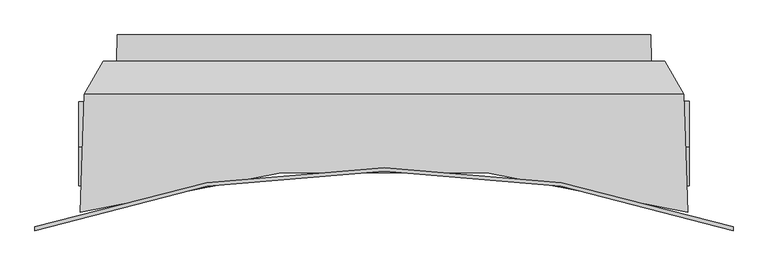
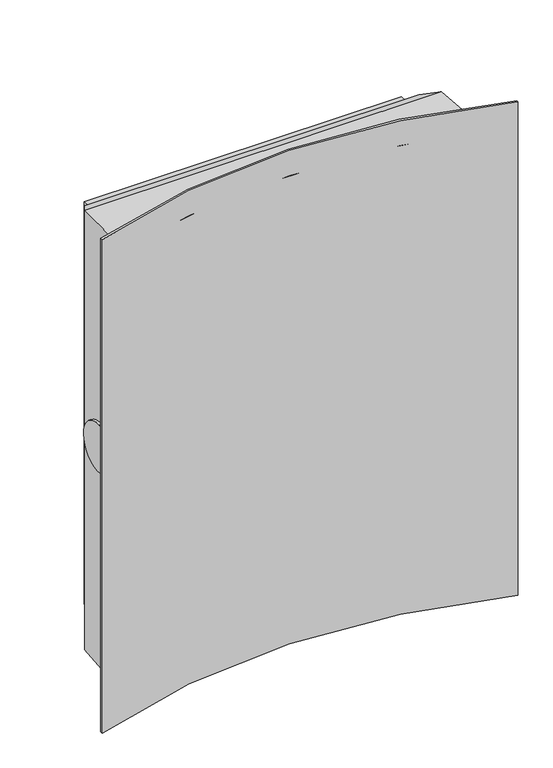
"""IFC4 building model written with IfcOpenShell, lengths in millimetres: proxy geometry, SU.900x1200ManwayRiserAdapter.3500."""

from ifc_helpers import new_model, si_unit, frame, origin, place, context, project, spatial, polyline, circle_curve, ellipse_curve, source, transform, mapped, element, save
from ifc_brep_helpers import plane_surface, cylinder_surface, revolved_surface, advanced_brep


def generic_models_c3405434(model_context):
    return source(origin(), model_context, "Body", "AdvancedBrep", [
        advanced_brep(
        [(498.8644366, -174.4226099, -69.7774514), (506.0, -174.4226099, -69.7774514), (506.0, -185.5773901, 69.7774514), (499.2539702, -185.5773901, 69.7774514), (-506.0, -174.4226099, -69.7774514), (-498.8644366, -174.4226099, -69.7774514), (-499.2539702, -185.5773901, 69.7774514), (-506.0, -185.5773901, 69.7774514), (-496.206021, -98.2955463, -646.206021), (-503.0285785, -293.6680303, -653.0285785), (-503.0285785, -293.6680303, 653.0285785), (-496.206021, -98.2955463, 646.206021), (-496.6147495, -110.0, 0.0), (503.0285785, -293.6680303, -653.0285785), (496.206021, -98.2955463, -646.206021), (496.206021, -98.2955463, 646.206021), (503.0285785, -293.6680303, 653.0285785), (496.6147495, -110.0, 0.0), (578.2496957, -318.1087275, -725.0), (-578.2496957, -318.1087275, -725.0), (-578.2496957, -318.1087275, 725.0), (578.2496957, -318.1087275, 725.0), (-464.8584727, -44.0, -614.8584727), (464.8584727, -44.0, -614.8584727), (464.8584727, -44.0, 614.8584727), (-464.8584727, -44.0, 614.8584727), (443.0401711, -44.0, -593.0401711), (443.0401711, -44.0, 593.0401711), (-443.0401711, -44.0, 593.0401711), (-443.0401711, -44.0, -593.0401711), (441.5036573, 0.0, 591.5036573), (441.5036573, 0.0, -591.5036573), (-441.5036573, 0.0, -591.5036573), (-441.5036573, 0.0, 591.5036573), (578.2496957, -324.4671382, -725.0), (578.2496957, -324.4671382, 725.0), (-578.2496957, -324.4671382, 725.0), (-578.2496957, -324.4671382, -725.0)],
        [
            (0, 1),
            (1, 2, circle_curve(frame((506.0, -180.0, 0.0), z_axis=(-1.0, 0.0, 0.0), x_axis=(0.0, 0.07967700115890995, -0.99682073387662)), 70.0)),
            (2, 3),
            (3, 0, ellipse_curve(frame((499.0592034, -180.0, 0.0), z_axis=(0.9993908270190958, 0.03489949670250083, 0.0), x_axis=(0.03489949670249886, -0.9993908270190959, 0.0)), 70.0426681, 70.0)),
            (4, 5),
            (5, 6, ellipse_curve(frame((-499.0592034, -180.0, 0.0), z_axis=(-0.9993908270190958, 0.034899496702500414, 0.0), x_axis=(0.03489949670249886, 0.9993908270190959, 0.0)), 70.0426681, 70.0)),
            (6, 7),
            (7, 4, circle_curve(frame((-506.0, -180.0, 0.0), z_axis=(1.0, 0.0, 0.0), x_axis=(0.0, 0.07967700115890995, -0.99682073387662)), 70.0)),
            (8, 9),
            (9, 10),
            (10, 11),
            (11, 8),
            (5, 12, ellipse_curve(frame((-499.0592034, -180.0, 0.0), z_axis=(0.9993908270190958, -0.034899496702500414, 0.0), x_axis=(0.03489949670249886, 0.9993908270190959, 0.0)), 70.0426681, 70.0)),
            (12, 6, ellipse_curve(frame((-499.0592034, -180.0, 0.0), z_axis=(0.9993908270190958, -0.034899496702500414, 0.0), x_axis=(0.03489949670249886, 0.9993908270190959, 0.0)), 70.0426681, 70.0)),
            (4, 7, circle_curve(frame((-506.0, -180.0, 0.0), z_axis=(1.0, 0.0, 0.0), x_axis=(0.0, 0.07967700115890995, -0.99682073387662)), 70.0)),
            (13, 14),
            (14, 15),
            (15, 16),
            (16, 13),
            (17, 0, ellipse_curve(frame((499.0592034, -180.0, 0.0), z_axis=(-0.9993908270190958, -0.03489949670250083, 0.0), x_axis=(0.03489949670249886, -0.9993908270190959, 0.0)), 70.0426681, 70.0)),
            (3, 17, ellipse_curve(frame((499.0592034, -180.0, 0.0), z_axis=(-0.9993908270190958, -0.03489949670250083, 0.0), x_axis=(0.03489949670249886, -0.9993908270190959, 0.0)), 70.0426681, 70.0)),
            (2, 1, circle_curve(frame((506.0, -180.0, 0.0), z_axis=(-1.0, 0.0, 0.0), x_axis=(0.0, 0.07967700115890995, -0.99682073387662)), 70.0)),
            (13, 9, ellipse_curve(frame((0.0, -1969.8130865, -711.5608536), z_axis=(0.0, -0.034899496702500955, 0.9993908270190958), x_axis=(0.0, 0.9993908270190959, 0.03489949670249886)), 1751.0667025, 1750.0)),
            (8, 14),
            (15, 11),
            (10, 16, ellipse_curve(frame((0.0, -1969.8130865, 711.5608536), z_axis=(0.0, -0.03489949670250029, -0.9993908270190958), x_axis=(0.0, -0.9993908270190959, 0.03489949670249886)), 1751.0667025, 1750.0)),
            (18, 19, circle_curve(frame((0.0, -1969.8130865, -725.0), z_axis=(0.0, 0.0, 1.0), x_axis=(0.33042839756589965, 0.9438310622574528, 0.0)), 1750.0)),
            (19, 20),
            (20, 21, circle_curve(frame((0.0, -1969.8130865, 725.0), z_axis=(0.0, 0.0, -1.0), x_axis=(0.33042839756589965, 0.9438310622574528, 0.0)), 1750.0)),
            (21, 18),
            (8, 22),
            (22, 23),
            (23, 14),
            (23, 24),
            (24, 15),
            (22, 25),
            (25, 24),
            (26, 27),
            (27, 28),
            (28, 29),
            (29, 26),
            (25, 11),
            (30, 31),
            (31, 32),
            (32, 33),
            (33, 30),
            (30, 27),
            (26, 31),
            (29, 32),
            (33, 28),
            (34, 35),
            (35, 36, circle_curve(frame((0.0, -1969.8130865, 725.0), z_axis=(0.0, 0.0, 1.0), x_axis=(-0.3315651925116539, -0.9434323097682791, 0.0)), 1744.0)),
            (36, 37),
            (37, 34, circle_curve(frame((0.0, -1969.8130865, -725.0), z_axis=(0.0, 0.0, -1.0), x_axis=(-0.3315651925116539, -0.9434323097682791, 0.0)), 1744.0)),
            (34, 18),
            (21, 35),
            (19, 37),
            (36, 20),
        ],
        [
            cylinder_surface(frame((0.0, -180.0, 0.0), z_axis=(1.0000000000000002, 0.0, 0.0), x_axis=(0.0, 0.07967700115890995, -0.99682073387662)), 70.0),
            plane_surface(frame((-496.206021, -98.2955463, -541.5), z_axis=(-0.9993908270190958, 0.034899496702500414, 0.0), x_axis=(-0.034899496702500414, -0.9993908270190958, 0.0))),
            plane_surface(frame((496.206021, -98.2955463, 541.5), z_axis=(0.9993908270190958, 0.03489949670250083, 0.0), x_axis=(0.03489949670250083, -0.9993908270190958, 0.0))),
            plane_surface(frame((506.0, -205.0, 0.0), z_axis=(1.0, 0.0, 0.0), x_axis=(0.0, 0.0, -1.0))),
            plane_surface(frame((-506.0, -205.0, 0.0), z_axis=(-1.0, 0.0, 0.0), x_axis=(0.0, 0.0, -1.0))),
            plane_surface(frame((391.5, -98.2955463, -646.206021), z_axis=(0.0, 0.034899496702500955, -0.9993908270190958), x_axis=(0.0, -0.9993908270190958, -0.034899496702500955))),
            plane_surface(frame((-391.5, -98.2955463, 646.206021), z_axis=(0.0, 0.03489949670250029, 0.9993908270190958), x_axis=(0.0, -0.9993908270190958, 0.03489949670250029))),
            cylinder_surface(frame((0.0, -1969.8130865, 0.0), z_axis=(0.0, 0.0, 1.0), x_axis=(0.33042839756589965, 0.9438310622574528, 0.0)), 1750.0),
            plane_surface(frame((391.5, -44.0, -614.8584727), z_axis=(0.0, 0.49999999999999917, -0.8660254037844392), x_axis=(0.0, -0.8660254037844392, -0.49999999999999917))),
            plane_surface(frame((464.8584727, -44.0, 541.5), z_axis=(0.8660254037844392, 0.49999999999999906, 0.0), x_axis=(0.49999999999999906, -0.8660254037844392, 0.0))),
            plane_surface(frame((391.5, -44.0, -593.0401711), z_axis=(0.0, 1.0, 0.0), x_axis=(0.0, 0.0, -1.0))),
            plane_surface(frame((-391.5, -44.0, 614.8584727), z_axis=(0.0, 0.4999999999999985, 0.8660254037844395), x_axis=(0.0, -0.8660254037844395, 0.4999999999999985))),
            plane_surface(frame((-464.8584727, -44.0, -541.5), z_axis=(-0.8660254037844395, 0.49999999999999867, 0.0), x_axis=(-0.49999999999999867, -0.8660254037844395, 0.0))),
            plane_surface(frame((391.5, 0.0, -585.5), z_axis=(0.0, 1.0, 0.0), x_axis=(0.0, 0.0, -1.0))),
            plane_surface(frame((441.5036573, 0.0, 541.5), z_axis=(0.999390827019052, 0.03489949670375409, 0.0), x_axis=(0.03489949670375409, -0.999390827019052, 0.0))),
            plane_surface(frame((391.5, 0.0, -591.5036573), z_axis=(0.0, 0.03489949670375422, -0.999390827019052), x_axis=(0.0, -0.999390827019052, -0.03489949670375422))),
            plane_surface(frame((-391.5, 0.0, 591.5036573), z_axis=(0.0, 0.03489949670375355, 0.999390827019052), x_axis=(0.0, -0.999390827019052, 0.03489949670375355))),
            plane_surface(frame((-441.5036573, 0.0, -541.5), z_axis=(-0.999390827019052, 0.034899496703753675, 0.0), x_axis=(-0.034899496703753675, -0.999390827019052, 0.0))),
            revolved_surface(polyline([(-578.2496957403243, -3615.159034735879, 725.0000000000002), (-578.2496957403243, -3615.159034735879, -725.0000000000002)]), (0.0, -1969.8130865, 0.0), (0.0, 0.0, 1.0000000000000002)),
            plane_surface(frame((578.2496957, -324.4671382, 0.0), z_axis=(1.0, 0.0, 0.0), x_axis=(0.0, 1.0, 0.0))),
            plane_surface(frame((-578.2496957, -318.1087275, 0.0), z_axis=(-1.0, 0.0, 0.0), x_axis=(0.0, -1.0, 0.0))),
            plane_surface(frame((0.0, -272.1401123, 725.0), z_axis=(0.0, 0.0, 1.0), x_axis=(1.0, 0.0, 0.0))),
            plane_surface(frame((0.0, -272.1401123, -725.0), z_axis=(0.0, 0.0, -1.0), x_axis=(1.0, 0.0, 0.0))),
        ],
        [
            (0, [[1, 2, 3, 4]]),
            (0, [[5, 6, 7, 8]]),
            (1, [[9, 10, 11, 12], [13, 14, -6]]),
            (0, [[-5, 15, -7, -14, -13]]),
            (2, [[16, 17, 18, 19], [20, -4, 21]]),
            (0, [[-1, -20, -21, -3, 22]]),
            (3, [[-2, -22]]),
            (4, [[-15, -8]]),
            (5, [[-16, 23, -9, 24]]),
            (6, [[-18, 25, -11, 26]]),
            (7, [[27, 28, 29, 30], [-23, -19, -26, -10]]),
            (8, [[-24, 31, 32, 33]]),
            (9, [[-17, -33, 34, 35]]),
            (10, [[-32, 36, 37, -34], [38, 39, 40, 41]]),
            (11, [[-25, -35, -37, 42]]),
            (12, [[-12, -42, -36, -31]]),
            (13, [[43, 44, 45, 46]]),
            (14, [[-43, 47, -38, 48]]),
            (15, [[-48, -41, 49, -44]]),
            (16, [[-46, 50, -39, -47]]),
            (17, [[-45, -49, -40, -50]]),
            (18, [[51, 52, 53, 54]]),
            (19, [[-51, 55, -30, 56]]),
            (20, [[-28, 57, -53, 58]]),
            (21, [[-56, -29, -58, -52]]),
            (22, [[-57, -27, -55, -54]]),
        ],
    ),
    ])


if __name__ == "__main__":
    model = new_model("IFC4")
    model_context = context("Model", 3, world=origin())
    ifc_project = project(units=[si_unit("LENGTHUNIT", "METRE", prefix="MILLI")], contexts=[model_context])
    site = spatial("IfcSite", under=ifc_project)
    building = spatial("IfcBuilding", under=site)
    placement = place(None, origin())
    generic_models_shape = generic_models_c3405434(model_context)
    element("IfcBuildingElementProxy", 1, Name="SU.900x1200ManwayRiserAdapter.3500", ObjectType="SU.900x1200ManwayRiserAdapter.3500", at=placement, inside=building, context=model_context, shape_type="MappedRepresentation", body=[
        mapped(generic_models_shape, transform((0.0, 0.0, 0.0), x_axis=(1.0, 0.0, 0.0), y_axis=(0.0, 1.0, 0.0), z_axis=(0.0, 0.0, 1.0))),
    ])
    save(model, "model.ifc")
